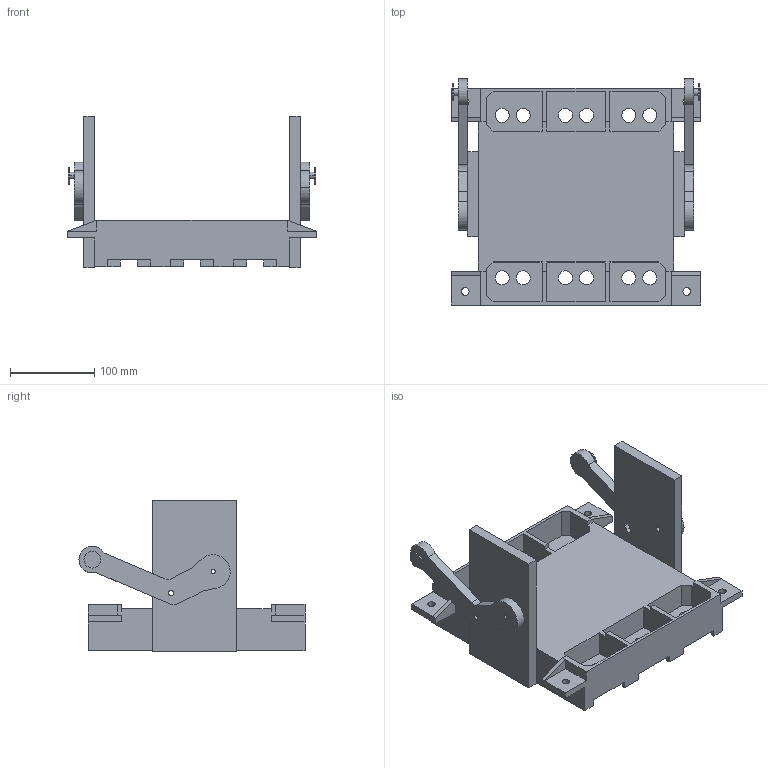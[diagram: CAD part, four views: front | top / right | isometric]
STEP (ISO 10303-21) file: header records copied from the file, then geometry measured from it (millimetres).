
FILE_DESCRIPTION (( 'STEP AP214' ), '1' );
FILE_NAME ('ﾂﾀ57-39 ﾎ魵瑙韃.STEP', '2023-07-14T06:35:53', ( '' ), ( '' ), 'SwSTEP 2.0', 'SolidWorks 2018', '' );
FILE_SCHEMA (( 'AUTOMOTIVE_DESIGN' ));
Length unit declared in the file: millimetre
Products named in the file (1): ﾂﾀ57-39 ﾎ魵瑙韃
Bounding box: 296 x 267.79 x 179.7 mm (x, y, z)
Volume: 2157356 mm3; surface area: 339946.5 mm2
Topology: 1 solids, 1 shells, 314 faces, 892 edges, 588 vertices
Faces by surface type: plane 242, cylinder 72
Entity records: 13668 total; most frequent: CARTESIAN_POINT 1795, ORIENTED_EDGE 1784, DIRECTION 1666, EDGE_CURVE 892, LINE 748, VECTOR 748, VERTEX_POINT 588, AXIS2_PLACEMENT_3D 459
